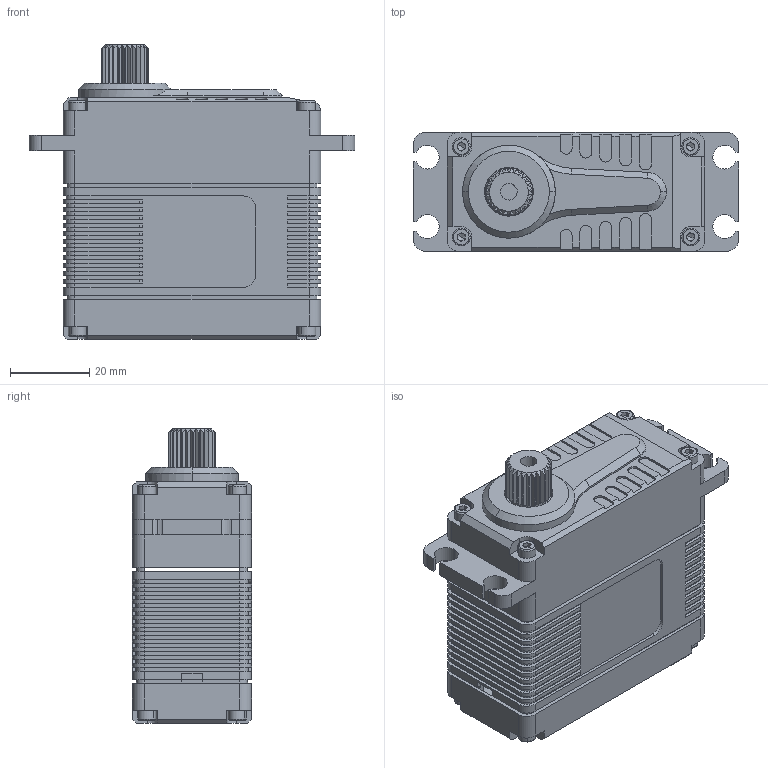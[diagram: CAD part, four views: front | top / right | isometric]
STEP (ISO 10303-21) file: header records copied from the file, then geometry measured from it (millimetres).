
FILE_DESCRIPTION (( 'STEP AP214' ), '1' );
FILE_NAME ('X25-8.4-65 v2.0_DM_1222.STEP', '2020-12-22T07:20:35', ( '微软用户' ), ( '微软中国' ), 'SwSTEP 2.0', 'SolidWorks 2016', '' );
FILE_SCHEMA (( 'AUTOMOTIVE_DESIGN' ));
Length unit declared in the file: millimetre
Products named in the file (2): X25-8.4-65 v2.0_DM_1222
Bounding box: 82 x 30 x 74.3 mm (x, y, z)
Surface area: 23153.8 mm2 (no closed solid volume)
Topology: 0 solids, 17 shells, 762 faces, 2328 edges, 1554 vertices
Faces by surface type: plane 445, cylinder 266, cone 35, bspline 16
Entity records: 35258 total; most frequent: CARTESIAN_POINT 6549, ORIENTED_EDGE 4280, DIRECTION 3996, EDGE_CURVE 2312, VERTEX_POINT 1554, VECTOR 1518, LINE 1518, AXIS2_PLACEMENT_3D 1239
